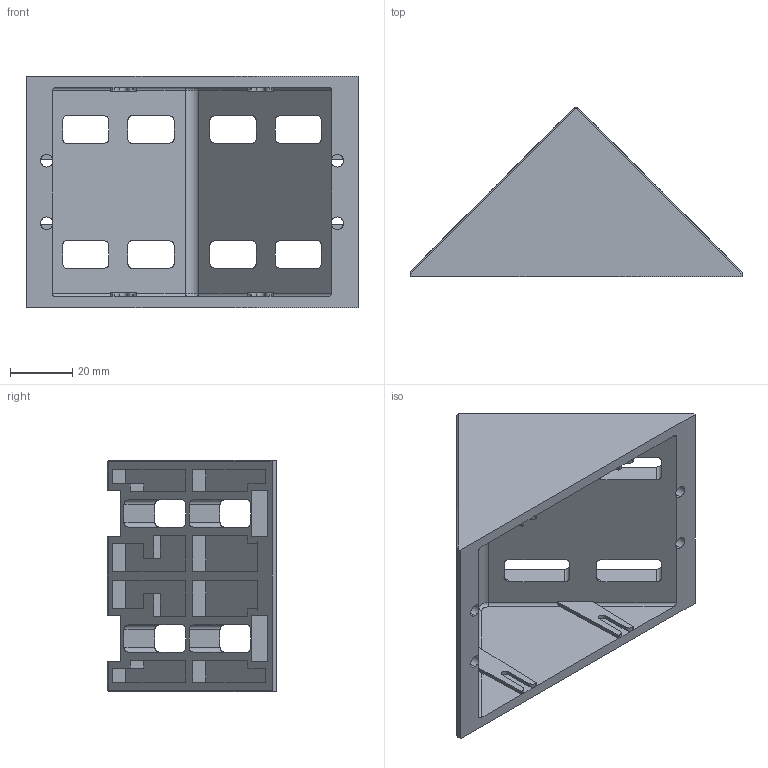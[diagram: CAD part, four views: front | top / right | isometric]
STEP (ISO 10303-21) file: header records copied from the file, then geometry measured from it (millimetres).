
FILE_DESCRIPTION (( 'STEP AP214' ), '1' );
FILE_NAME ('6.08.spb80.STEP', '2015-05-31T08:01:38', ( '' ), ( '' ), 'SwSTEP 2.0', 'SolidWorks 2015', '' );
FILE_SCHEMA (( 'AUTOMOTIVE_DESIGN' ));
Length unit declared in the file: millimetre
Products named in the file (1): 6.08.spb80
Bounding box: 106.26 x 54.21 x 74 mm (x, y, z)
Volume: 62544.5 mm3; surface area: 35825.9 mm2
Topology: 1 solids, 1 shells, 289 faces, 814 edges, 540 vertices
Faces by surface type: plane 217, cylinder 68, bspline 4
Entity records: 9383 total; most frequent: CARTESIAN_POINT 1903, ORIENTED_EDGE 1628, DIRECTION 1430, EDGE_CURVE 814, LINE 658, VECTOR 658, VERTEX_POINT 540, AXIS2_PLACEMENT_3D 386
